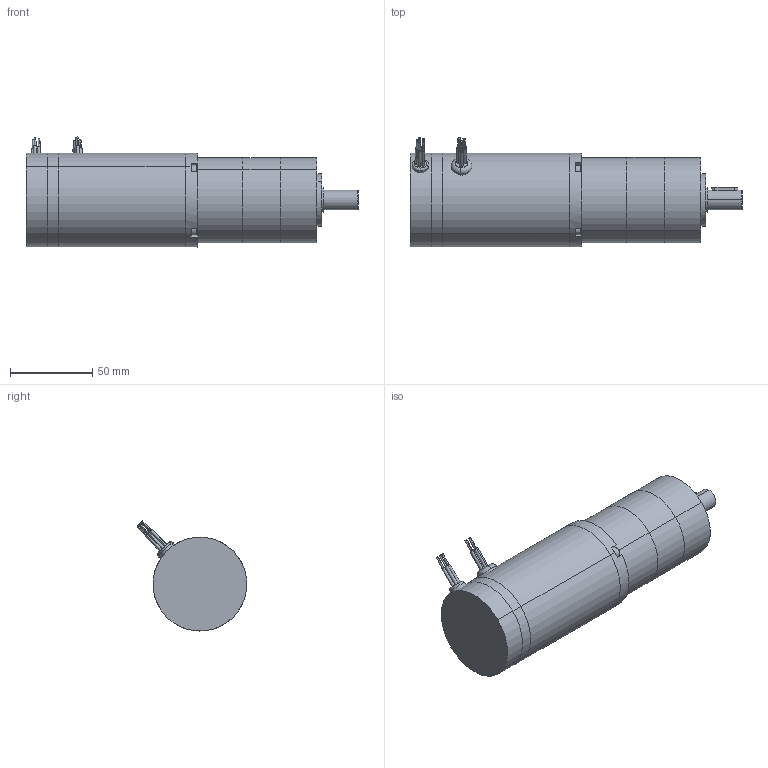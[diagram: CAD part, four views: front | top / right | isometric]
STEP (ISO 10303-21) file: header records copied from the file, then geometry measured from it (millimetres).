
FILE_DESCRIPTION (( 'STEP AP203' ), '1' );
FILE_NAME ('bl58412gp1.step', '2018-12-07T18:58:14', ( '' ), ( '' ), 'SwSTEP 2.0', 'SolidWorks 2017', '' );
FILE_SCHEMA (( 'CONFIG_CONTROL_DESIGN' ));
Length unit declared in the file: inch
Products named in the file (1): bl58412gp1
Bounding box: 202.17 x 66.83 x 67 mm (x, y, z)
Volume: 425462.9 mm3; surface area: 82871.5 mm2
Topology: 23 solids, 23 shells, 376 faces, 796 edges, 504 vertices
Faces by surface type: cylinder 156, plane 155, cone 61, torus 4
Entity records: 10248 total; most frequent: DIRECTION 1905, CARTESIAN_POINT 1789, ORIENTED_EDGE 1560, EDGE_CURVE 780, AXIS2_PLACEMENT_3D 754, VERTEX_POINT 504, EDGE_LOOP 450, VECTOR 397
